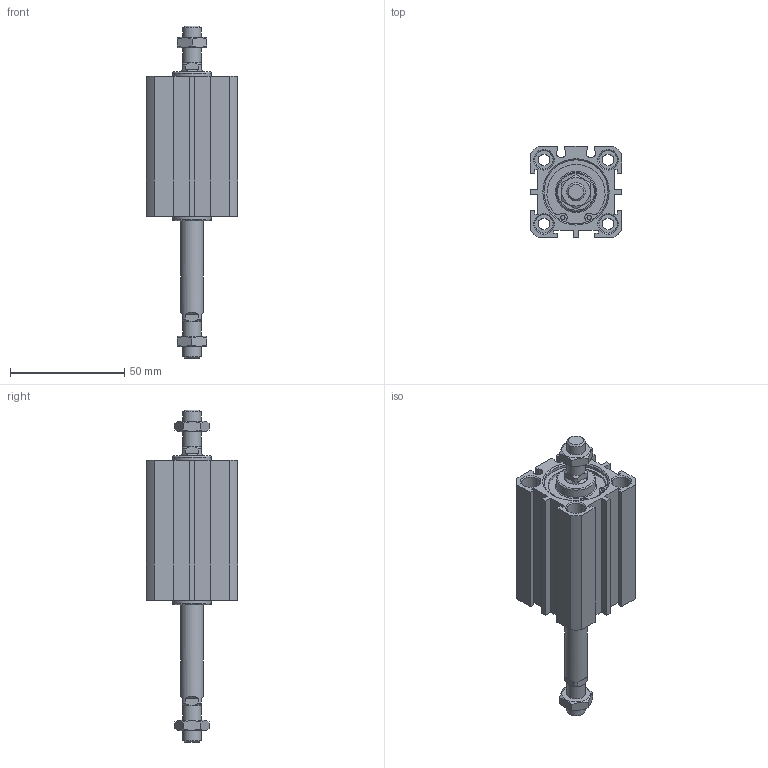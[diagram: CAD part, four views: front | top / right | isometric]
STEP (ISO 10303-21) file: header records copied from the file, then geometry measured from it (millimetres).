
FILE_DESCRIPTION((''),'2;1');
FILE_NAME('I:\3D電子目錄\氣缸\JDD\JDD-B\JDD25-B\JDD25x40-B.stp','2007-02-27T13:54:24',('662F206'),(''),'Autodesk Inventor 10','Autodesk Inventor 10','');
FILE_SCHEMA(('AUTOMOTIVE_DESIGN { 1 0 10303 214 1 1 1 1 }'));
Length unit declared in the file: millimetre
Products named in the file (3): JDD25-B; R 形環 28
Assembly tree (3 placements, depth 2):
  JDD25-B
    JDD25-B
    R 形環 28  x2
Bounding box: 40 x 40 x 145.2 mm (x, y, z)
Volume: 83344.8 mm3; surface area: 26408.3 mm2
Topology: 3 solids, 3 shells, 192 faces, 454 edges, 294 vertices
Faces by surface type: plane 108, cylinder 50, cone 26, bspline 6, torus 2
Full cylindrical faces by diameter (mm): 1.5 x2, 1.9 x4, 5.1 x4, 8 x12, 10 x2, 17 x2, 28 x4, 29.4 x2
Entity records: 4989 total; most frequent: CARTESIAN_POINT 1022, DIRECTION 812, ORIENTED_EDGE 724, EDGE_CURVE 362, AXIS2_PLACEMENT_3D 310, EDGE_LOOP 272, VERTEX_POINT 266, VECTOR 192
